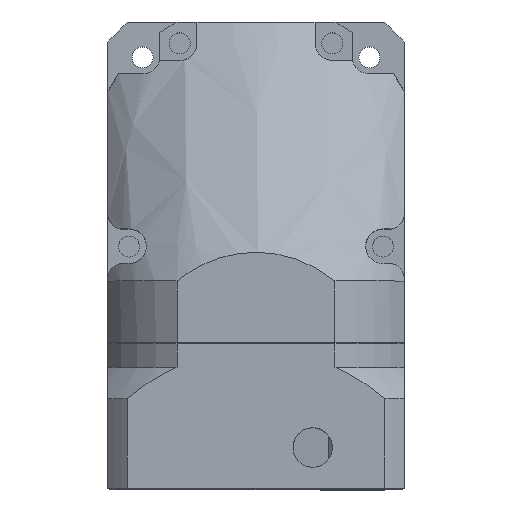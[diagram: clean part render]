
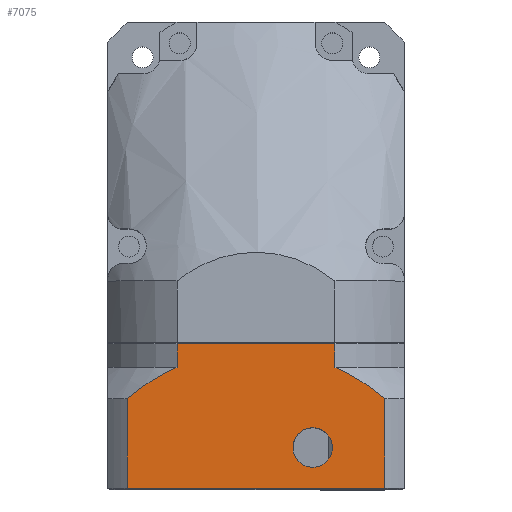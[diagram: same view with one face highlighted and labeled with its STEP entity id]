
A CAD part, top view. The second image highlights one B-rep face of the part: STEP entity #7075.
In plain terms, the highlighted planar face has unit normal (0, 0, 1).
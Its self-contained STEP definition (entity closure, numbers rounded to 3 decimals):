
#356 = EDGE_LOOP ( 'NONE', ( #1030, #27394 ) ) ;
#388 = ORIENTED_EDGE ( 'NONE', *, *, #17213, .T. ) ;
#871 = CARTESIAN_POINT ( 'NONE',  ( 11.605, -35.677, 60. ) ) ;
#872 = CARTESIAN_POINT ( 'NONE',  ( 42.5, 23., 60. ) ) ;
#1030 = ORIENTED_EDGE ( 'NONE', *, *, #24347, .T. ) ;
#1109 = CARTESIAN_POINT ( 'NONE',  ( 20.045, 49.114, 60. ) ) ;
#1460 = CARTESIAN_POINT ( 'NONE',  ( 0., -32., 60. ) ) ;
#2163 = FACE_BOUND ( 'NONE', #356, .T. ) ;
#2880 = DIRECTION ( 'NONE',  ( 0., 0., 1. ) ) ;
#3637 = AXIS2_PLACEMENT_3D ( 'NONE', #20148, #2880, #23341 ) ;
#3807 = DIRECTION ( 'NONE',  ( 1., 0., 0. ) ) ;
#3986 = AXIS2_PLACEMENT_3D ( 'NONE', #872, #21341, #3807 ) ;
#4136 = LINE ( 'NONE', #24586, #34270 ) ;
#4156 = CARTESIAN_POINT ( 'NONE',  ( 10., 32., 60. ) ) ;
#4374 = VERTEX_POINT ( 'NONE', #34780 ) ;
#4704 = EDGE_CURVE ( 'NONE', #29591, #34298, #6898, .T. ) ;
#4972 = LINE ( 'NONE', #28610, #28282 ) ;
#6279 = VERTEX_POINT ( 'NONE', #32455 ) ;
#6431 = CARTESIAN_POINT ( 'NONE',  ( 22.66, -52.156, 60. ) ) ;
#6898 = LINE ( 'NONE', #1460, #7811 ) ;
#7075 = ADVANCED_FACE ( 'NONE', ( #33197, #2163 ), #20395, .T. ) ;
#7082 = CARTESIAN_POINT ( 'NONE',  ( 10., -32., 60. ) ) ;
#7094 = VECTOR ( 'NONE', #11102, 1000. ) ;
#7811 = VECTOR ( 'NONE', #30681, 1000. ) ;
#8459 = EDGE_CURVE ( 'NONE', #31842, #22744, #13970, .T. ) ;
#8931 = CIRCLE ( 'NONE', #19372, 8. ) ;
#9425 = CARTESIAN_POINT ( 'NONE',  ( 59., -52.156, 60. ) ) ;
#10492 = CARTESIAN_POINT ( 'NONE',  ( 0.5, -32., 60. ) ) ;
#10775 = ORIENTED_EDGE ( 'NONE', *, *, #35545, .T. ) ;
#10844 = CARTESIAN_POINT ( 'NONE',  ( 0., 52.156, 60. ) ) ;
#11102 = DIRECTION ( 'NONE',  ( -1., 0., 0. ) ) ;
#12245 = EDGE_CURVE ( 'NONE', #22744, #33348, #27125, .T. ) ;
#12721 = VERTEX_POINT ( 'NONE', #24330 ) ;
#12797 = EDGE_CURVE ( 'NONE', #24539, #31842, #4136, .T. ) ;
#13310 = ORIENTED_EDGE ( 'NONE', *, *, #12797, .T. ) ;
#13572 = VECTOR ( 'NONE', #13969, 1000. ) ;
#13969 = DIRECTION ( 'NONE',  ( 1., 0., 0. ) ) ;
#13970 = LINE ( 'NONE', #10844, #7094 ) ;
#14577 = ORIENTED_EDGE ( 'NONE', *, *, #4704, .F. ) ;
#14688 = DIRECTION ( 'NONE',  ( -1., 0., 0. ) ) ;
#15693 = CARTESIAN_POINT ( 'NONE',  ( 20.045, -49.114, 60. ) ) ;
#16053 = EDGE_CURVE ( 'NONE', #34298, #12721, #4972, .T. ) ;
#17213 = EDGE_CURVE ( 'NONE', #29591, #33973, #34952, .T. ) ;
#17390 = CARTESIAN_POINT ( 'NONE',  ( 42.5, 23., 60. ) ) ;
#17825 = EDGE_LOOP ( 'NONE', ( #14577, #388, #19171, #13310, #18264, #21217, #10775, #32106 ) ) ;
#17943 = EDGE_CURVE ( 'NONE', #33973, #24539, #28185, .T. ) ;
#18264 = ORIENTED_EDGE ( 'NONE', *, *, #8459, .T. ) ;
#18743 = CARTESIAN_POINT ( 'NONE',  ( 22.66, 52.156, 60. ) ) ;
#18828 = DIRECTION ( 'NONE',  ( 0., 1., 0. ) ) ;
#19171 = ORIENTED_EDGE ( 'NONE', *, *, #17943, .T. ) ;
#19372 = AXIS2_PLACEMENT_3D ( 'NONE', #17390, #37821, #20332 ) ;
#20148 = CARTESIAN_POINT ( 'NONE',  ( 0., -60., 60. ) ) ;
#20332 = DIRECTION ( 'NONE',  ( 1., 0., 0. ) ) ;
#20395 = PLANE ( 'NONE',  #3637 ) ;
#20558 = DIRECTION ( 'NONE',  ( 0., 1., 0. ) ) ;
#21217 = ORIENTED_EDGE ( 'NONE', *, *, #12245, .T. ) ;
#21341 = DIRECTION ( 'NONE',  ( 0., 0., -1. ) ) ;
#21697 = CARTESIAN_POINT ( 'NONE',  ( 11.605, 35.677, 60. ) ) ;
#22481 = VECTOR ( 'NONE', #14688, 1000. ) ;
#22744 = VERTEX_POINT ( 'NONE', #27239 ) ;
#23341 = DIRECTION ( 'NONE',  ( 1., 0., 0. ) ) ;
#24330 = CARTESIAN_POINT ( 'NONE',  ( 0.5, 32., 60. ) ) ;
#24347 = EDGE_CURVE ( 'NONE', #6279, #4374, #8931, .T. ) ;
#24539 = VERTEX_POINT ( 'NONE', #9425 ) ;
#24586 = CARTESIAN_POINT ( 'NONE',  ( 59., -60., 60. ) ) ;
#26409 = CARTESIAN_POINT ( 'NONE',  ( 59., 52.156, 60. ) ) ;
#27125 = B_SPLINE_CURVE_WITH_KNOTS ( 'NONE', 3,
 ( #18743, #1109, #30338, #21697, #4156 ),
 .UNSPECIFIED., .F., .F.,
 ( 4, 1, 4 ),
 ( 0., 0.012, 0.024 ),
 .UNSPECIFIED. ) ;
#27239 = CARTESIAN_POINT ( 'NONE',  ( 22.66, 52.156, 60. ) ) ;
#27394 = ORIENTED_EDGE ( 'NONE', *, *, #33346, .T. ) ;
#28185 = LINE ( 'NONE', #34361, #13572 ) ;
#28282 = VECTOR ( 'NONE', #20558, 1000. ) ;
#28610 = CARTESIAN_POINT ( 'NONE',  ( 0.5, -60., 60. ) ) ;
#29591 = VERTEX_POINT ( 'NONE', #7082 ) ;
#30204 = LINE ( 'NONE', #32019, #22481 ) ;
#30237 = CARTESIAN_POINT ( 'NONE',  ( 15.328, -42.708, 60. ) ) ;
#30338 = CARTESIAN_POINT ( 'NONE',  ( 15.328, 42.708, 60. ) ) ;
#30681 = DIRECTION ( 'NONE',  ( -1., 0., 0. ) ) ;
#31842 = VERTEX_POINT ( 'NONE', #26409 ) ;
#32019 = CARTESIAN_POINT ( 'NONE',  ( 0., 32., 60. ) ) ;
#32106 = ORIENTED_EDGE ( 'NONE', *, *, #16053, .F. ) ;
#32455 = CARTESIAN_POINT ( 'NONE',  ( 50.5, 23., 60. ) ) ;
#33143 = CARTESIAN_POINT ( 'NONE',  ( 10., -32., 60. ) ) ;
#33197 = FACE_OUTER_BOUND ( 'NONE', #17825, .T. ) ;
#33346 = EDGE_CURVE ( 'NONE', #4374, #6279, #35361, .T. ) ;
#33348 = VERTEX_POINT ( 'NONE', #35878 ) ;
#33973 = VERTEX_POINT ( 'NONE', #6431 ) ;
#34270 = VECTOR ( 'NONE', #18828, 1000. ) ;
#34298 = VERTEX_POINT ( 'NONE', #10492 ) ;
#34361 = CARTESIAN_POINT ( 'NONE',  ( 0., -52.156, 60. ) ) ;
#34780 = CARTESIAN_POINT ( 'NONE',  ( 34.5, 23., 60. ) ) ;
#34952 = B_SPLINE_CURVE_WITH_KNOTS ( 'NONE', 3,
 ( #33143, #871, #30237, #15693, #36116 ),
 .UNSPECIFIED., .F., .F.,
 ( 4, 1, 4 ),
 ( 0., 0.012, 0.024 ),
 .UNSPECIFIED. ) ;
#35361 = CIRCLE ( 'NONE', #3986, 8. ) ;
#35545 = EDGE_CURVE ( 'NONE', #33348, #12721, #30204, .T. ) ;
#35878 = CARTESIAN_POINT ( 'NONE',  ( 10., 32., 60. ) ) ;
#36116 = CARTESIAN_POINT ( 'NONE',  ( 22.66, -52.156, 60. ) ) ;
#37821 = DIRECTION ( 'NONE',  ( 0., 0., -1. ) ) ;
